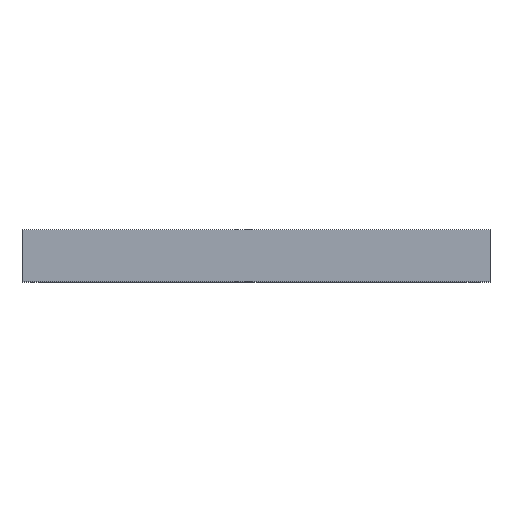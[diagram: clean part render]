
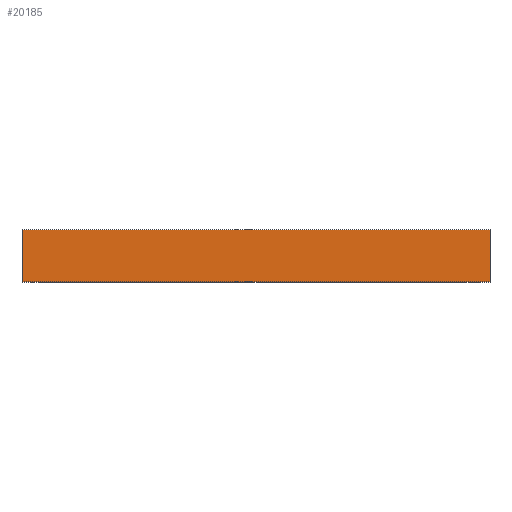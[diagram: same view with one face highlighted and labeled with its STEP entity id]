
A CAD part, top view. The second image highlights one B-rep face of the part: STEP entity #20185.
In plain terms, the highlighted planar face has unit normal (0, 0, 1).
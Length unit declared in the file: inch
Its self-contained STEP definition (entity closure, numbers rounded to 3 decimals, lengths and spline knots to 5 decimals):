
#594 = VERTEX_POINT ( 'NONE', #13733 ) ;
#2193 = DIRECTION ( 'NONE',  ( 1., 0., 0. ) ) ;
#3136 = VECTOR ( 'NONE', #8239, 39.37008 ) ;
#4161 = CARTESIAN_POINT ( 'NONE',  ( 12.91905, 2.875, 12.91905 ) ) ;
#4174 = EDGE_CURVE ( 'NONE', #15140, #15329, #5965, .T. ) ;
#4465 = EDGE_LOOP ( 'NONE', ( #24228, #10513, #10064, #24919 ) ) ;
#4490 = FACE_OUTER_BOUND ( 'NONE', #4465, .T. ) ;
#4954 = LINE ( 'NONE', #21341, #13600 ) ;
#5965 = LINE ( 'NONE', #12167, #3136 ) ;
#6101 = CARTESIAN_POINT ( 'NONE',  ( 12.91905, 39.91559, 12.91905 ) ) ;
#6986 = VECTOR ( 'NONE', #18567, 39.37008 ) ;
#8239 = DIRECTION ( 'NONE',  ( 0., -1., 0. ) ) ;
#8300 = CARTESIAN_POINT ( 'NONE',  ( -12.91905, 0., 12.91905 ) ) ;
#8756 = EDGE_CURVE ( 'NONE', #594, #15329, #4954, .T. ) ;
#9394 = CARTESIAN_POINT ( 'NONE',  ( -12.91905, 2.875, 12.91905 ) ) ;
#10064 = ORIENTED_EDGE ( 'NONE', *, *, #4174, .T. ) ;
#10429 = EDGE_CURVE ( 'NONE', #11227, #594, #26578, .T. ) ;
#10513 = ORIENTED_EDGE ( 'NONE', *, *, #17285, .T. ) ;
#11227 = VERTEX_POINT ( 'NONE', #4161 ) ;
#12167 = CARTESIAN_POINT ( 'NONE',  ( -12.91905, 39.91559, 12.91905 ) ) ;
#12179 = DIRECTION ( 'NONE',  ( 0., 0., 1. ) ) ;
#13600 = VECTOR ( 'NONE', #23116, 39.37008 ) ;
#13687 = CARTESIAN_POINT ( 'NONE',  ( 12.91905, 39.91559, 12.91905 ) ) ;
#13733 = CARTESIAN_POINT ( 'NONE',  ( 12.91905, 0., 12.91905 ) ) ;
#14494 = VECTOR ( 'NONE', #20110, 39.37008 ) ;
#15140 = VERTEX_POINT ( 'NONE', #9394 ) ;
#15329 = VERTEX_POINT ( 'NONE', #8300 ) ;
#17285 = EDGE_CURVE ( 'NONE', #11227, #15140, #22082, .T. ) ;
#17801 = AXIS2_PLACEMENT_3D ( 'NONE', #6101, #12179, #2193 ) ;
#18567 = DIRECTION ( 'NONE',  ( -1., 0., 0. ) ) ;
#19769 = CARTESIAN_POINT ( 'NONE',  ( 12.91905, 2.875, 12.91905 ) ) ;
#20110 = DIRECTION ( 'NONE',  ( 0., -1., 0. ) ) ;
#20185 = ADVANCED_FACE ( 'NONE', ( #4490 ), #24933, .T. ) ;
#21341 = CARTESIAN_POINT ( 'NONE',  ( 12.91905, 0., 12.91905 ) ) ;
#22082 = LINE ( 'NONE', #19769, #6986 ) ;
#23116 = DIRECTION ( 'NONE',  ( -1., 0., 0. ) ) ;
#24228 = ORIENTED_EDGE ( 'NONE', *, *, #10429, .F. ) ;
#24919 = ORIENTED_EDGE ( 'NONE', *, *, #8756, .F. ) ;
#24933 = PLANE ( 'NONE',  #17801 ) ;
#26578 = LINE ( 'NONE', #13687, #14494 ) ;
